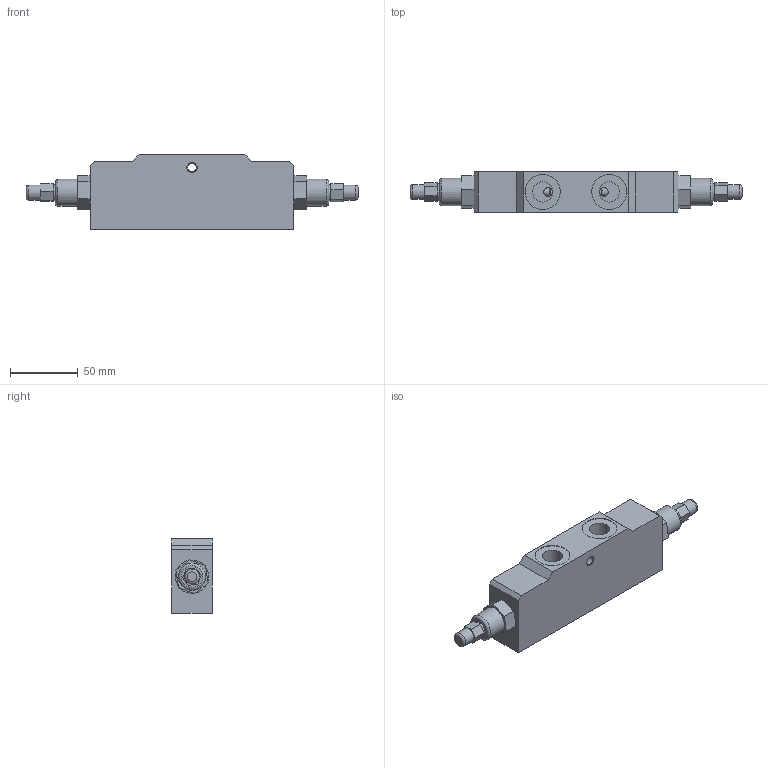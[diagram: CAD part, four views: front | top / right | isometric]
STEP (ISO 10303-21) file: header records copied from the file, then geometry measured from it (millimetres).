
FILE_DESCRIPTION(/* description */ ('Unknown'),/* implementation_level */ '2;1');
FILE_NAME(/* name */ 'VODE38',/* time_stamp */ '2024-12-05T10:46:36+01:00',/* author */ ('Unknown'),/* organization */ ('Unknown'),/* preprocessor_version */ 'ST-DEVELOPER v19.4',/* originating_system */ 'Solid Edge',/* authorisation */ 'Unknown');
FILE_SCHEMA (('AUTOMOTIVE_DESIGN {1 0 10303 214 3 1 1}'));
Length unit declared in the file: millimetre
Products named in the file (1): VODE38
Bounding box: 244.4 x 30 x 55 mm (x, y, z)
Volume: 234019.2 mm3; surface area: 61995.5 mm2
Topology: 4 solids, 4 shells, 368 faces, 834 edges, 551 vertices
Faces by surface type: plane 156, cylinder 140, cone 39, bspline 19, torus 14
Full cylindrical faces by diameter (mm): 1 x2, 2 x2, 3.53 x2, 4.2 x16, 4.85 x4, 5.49 x1, 5.92 x1, 5.95 x2, 6 x1, 6.5 x5, 7.42 x2, 7.55 x4, 8 x1, 8.5 x2, 8.95 x6, 9 x4, 10 x4, 10.23 x4, 10.85 x2, 11 x2, 11.5 x2, 11.9 x2, 12 x2, 12.15 x4, 12.8 x2, 12.96 x4, 13.2 x4, 13.3 x2, 13.55 x2, 13.68 x2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
Entity records: 26220 total; most frequent: CARTESIAN_POINT 16967, DIRECTION 1436, ORIENTED_EDGE 1060, FACE_BOUND 667, EDGE_LOOP 665, AXIS2_PLACEMENT_3D 637, EDGE_CURVE 530, VERTEX_POINT 441
